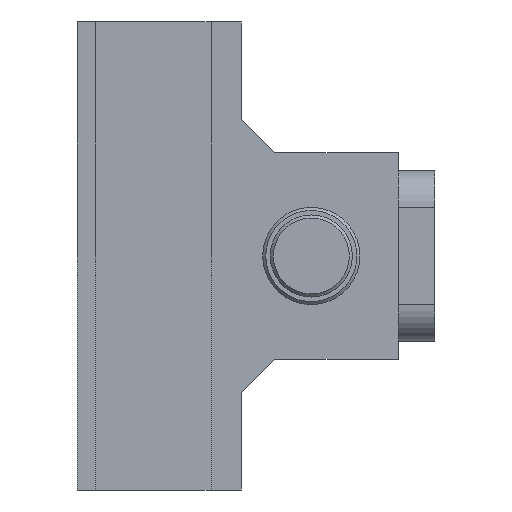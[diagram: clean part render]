
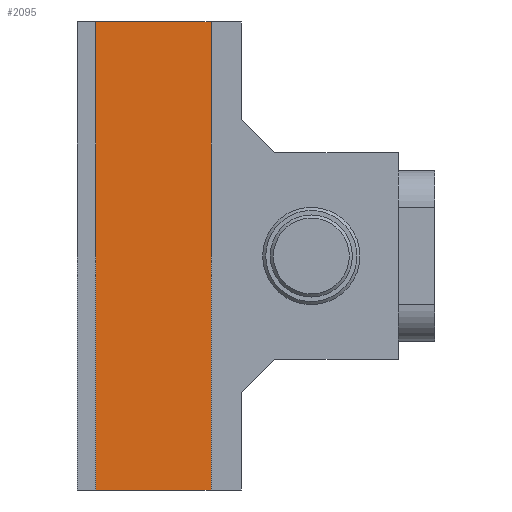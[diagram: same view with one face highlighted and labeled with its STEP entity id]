
A CAD part, left-side view. The second image highlights one B-rep face of the part: STEP entity #2095.
In plain terms, the highlighted planar face has unit normal (-1, 0, 0).
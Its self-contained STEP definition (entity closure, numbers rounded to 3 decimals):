
#76 = CARTESIAN_POINT ( 'NONE',  ( -11.5, 62., 38.5 ) ) ;
#110 = VECTOR ( 'NONE', #1940, 1000. ) ;
#131 = CARTESIAN_POINT ( 'NONE',  ( -11.5, 62., 38.5 ) ) ;
#245 = CARTESIAN_POINT ( 'NONE',  ( -11.5, 62., 38.5 ) ) ;
#299 = LINE ( 'NONE', #76, #2045 ) ;
#350 = DIRECTION ( 'NONE',  ( 1., 0., 0. ) ) ;
#417 = ORIENTED_EDGE ( 'NONE', *, *, #439, .T. ) ;
#439 = EDGE_CURVE ( 'NONE', #1482, #1465, #741, .T. ) ;
#564 = LINE ( 'NONE', #2151, #711 ) ;
#711 = VECTOR ( 'NONE', #1762, 1000. ) ;
#741 = LINE ( 'NONE', #1553, #110 ) ;
#799 = CARTESIAN_POINT ( 'NONE',  ( -11.5, 43., -38.5 ) ) ;
#830 = VECTOR ( 'NONE', #1054, 1000. ) ;
#842 = AXIS2_PLACEMENT_3D ( 'NONE', #131, #350, #1851 ) ;
#845 = EDGE_CURVE ( 'NONE', #2077, #1482, #299, .T. ) ;
#899 = ORIENTED_EDGE ( 'NONE', *, *, #845, .T. ) ;
#944 = VERTEX_POINT ( 'NONE', #2406 ) ;
#1054 = DIRECTION ( 'NONE',  ( 0., -1., 0. ) ) ;
#1064 = LINE ( 'NONE', #245, #830 ) ;
#1069 = EDGE_CURVE ( 'NONE', #2077, #944, #1064, .T. ) ;
#1280 = ORIENTED_EDGE ( 'NONE', *, *, #1069, .F. ) ;
#1465 = VERTEX_POINT ( 'NONE', #799 ) ;
#1482 = VERTEX_POINT ( 'NONE', #2367 ) ;
#1530 = EDGE_LOOP ( 'NONE', ( #899, #417, #2273, #1280 ) ) ;
#1553 = CARTESIAN_POINT ( 'NONE',  ( -11.5, 62., -38.5 ) ) ;
#1762 = DIRECTION ( 'NONE',  ( 0., 0., -1. ) ) ;
#1785 = CARTESIAN_POINT ( 'NONE',  ( -11.5, 62., 38.5 ) ) ;
#1851 = DIRECTION ( 'NONE',  ( 0., 1., 0. ) ) ;
#1930 = PLANE ( 'NONE',  #842 ) ;
#1940 = DIRECTION ( 'NONE',  ( 0., -1., 0. ) ) ;
#2045 = VECTOR ( 'NONE', #2291, 1000. ) ;
#2077 = VERTEX_POINT ( 'NONE', #1785 ) ;
#2095 = ADVANCED_FACE ( 'NONE', ( #2142 ), #1930, .F. ) ;
#2142 = FACE_OUTER_BOUND ( 'NONE', #1530, .T. ) ;
#2151 = CARTESIAN_POINT ( 'NONE',  ( -11.5, 43., 38.5 ) ) ;
#2273 = ORIENTED_EDGE ( 'NONE', *, *, #2324, .F. ) ;
#2291 = DIRECTION ( 'NONE',  ( 0., 0., -1. ) ) ;
#2324 = EDGE_CURVE ( 'NONE', #944, #1465, #564, .T. ) ;
#2367 = CARTESIAN_POINT ( 'NONE',  ( -11.5, 62., -38.5 ) ) ;
#2406 = CARTESIAN_POINT ( 'NONE',  ( -11.5, 43., 38.5 ) ) ;
